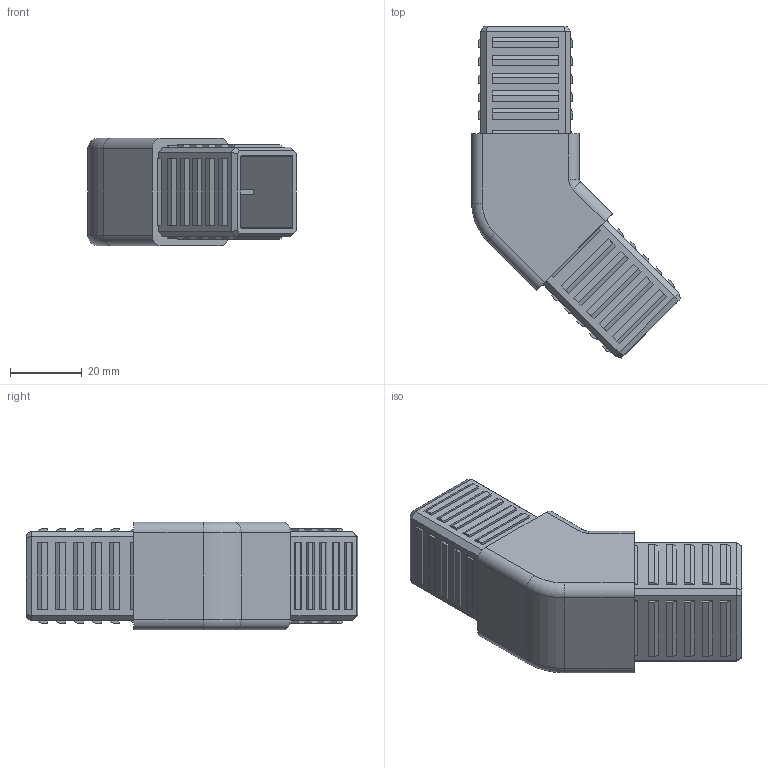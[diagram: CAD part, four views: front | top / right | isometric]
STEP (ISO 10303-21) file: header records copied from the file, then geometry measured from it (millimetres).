
FILE_DESCRIPTION (( 'STEP AP203' ), '1' );
FILE_NAME ('013.030.107.STEP', '2024-03-19T08:34:54', ( '' ), ( '' ), 'SwSTEP 2.0', 'SolidWorks 2021', '' );
FILE_SCHEMA (( 'CONFIG_CONTROL_DESIGN' ));
Length unit declared in the file: millimetre
Products named in the file (1): 013.030.107
Bounding box: 58.08 x 92.36 x 30 mm (x, y, z)
Volume: 34889.1 mm3; surface area: 24589.9 mm2
Topology: 1 solids, 1 shells, 307 faces, 774 edges, 507 vertices
Faces by surface type: plane 286, cylinder 17, torus 4
Entity records: 9096 total; most frequent: CARTESIAN_POINT 1601, ORIENTED_EDGE 1548, DIRECTION 1417, EDGE_CURVE 774, VECTOR 739, LINE 739, VERTEX_POINT 507, EDGE_LOOP 353
